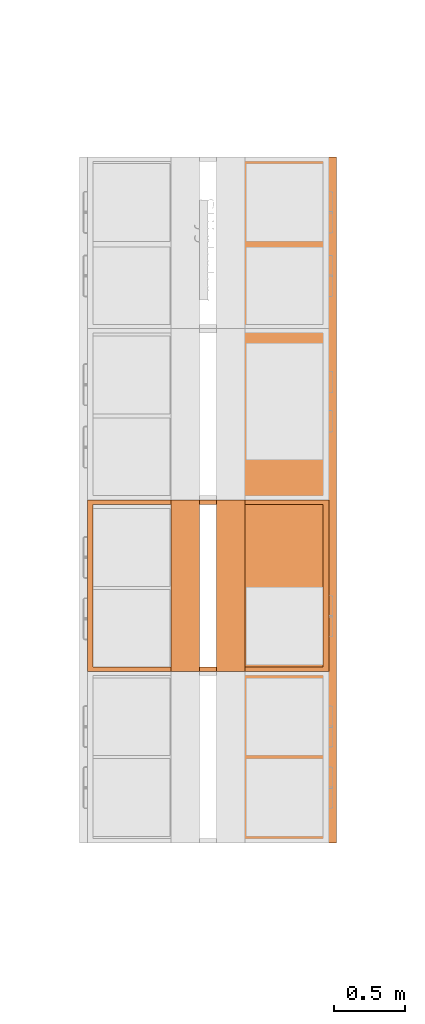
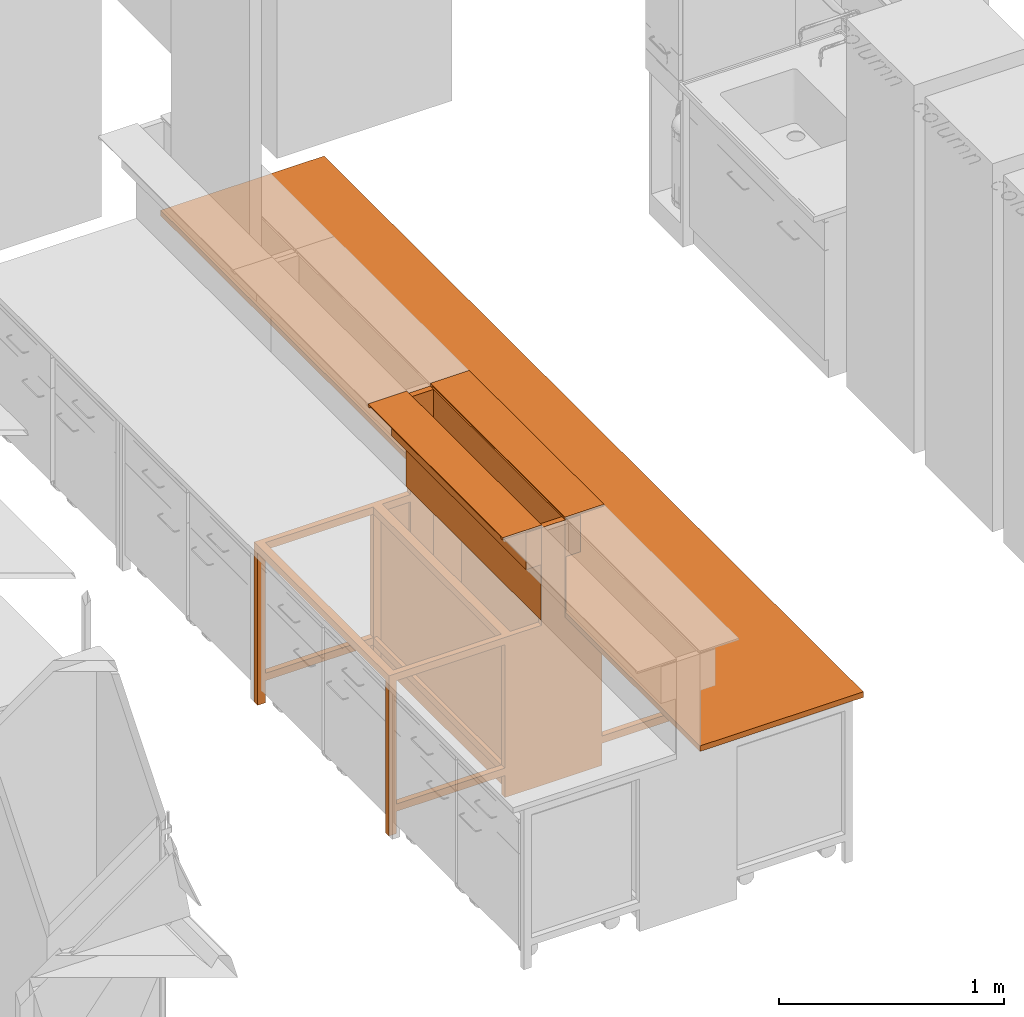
# One storey, part 5 of 43: 4 proxies.
"""IFC2X3 building model written with IfcOpenShell, lengths in metres."""

import ifcopenshell
import ifcopenshell.guid

model = None  # the IFC model being written
_history = None  # IfcOwnerHistory: only IFC2X3 demands one
_inside = {}  # id of a spatial element -> (the spatial element, [elements in it])
_under = {}  # id of a project, library or spatial element -> (it, [spatial elements below it])
_declared = {}  # id of a project -> (the project, [libraries it declares])
_typed = {}  # id of a type object -> (the type object, [elements of that type])
_made_of = {}  # id of a material, layer set ... -> (it, [elements and type objects made of it])


def new_model(schema):
    """Start an empty IFC model of exactly this schema.

    Asked for "IFC4X3", IfcOpenShell would pick the latest addendum, in which some entities
    have other attributes; the version numbers below select the first issue.
    IFC2X3 requires an IfcOwnerHistory on every rooted entity: one is made here for all.
    """
    global model, _history
    if schema == "IFC4X3":
        model = ifcopenshell.file(schema_version=(4, 3, 0, 0))
    else:
        model = ifcopenshell.file(schema=schema)
    _inside.clear()
    _under.clear()
    _declared.clear()
    _typed.clear()
    _made_of.clear()
    _history = None
    if model.schema == "IFC2X3":
        org = make("IfcOrganization", Name="unknown")
        user = make(
            "IfcPersonAndOrganization",
            ThePerson=make("IfcPerson", FamilyName="unknown"),
            TheOrganization=org,
        )
        app = make(
            "IfcApplication",
            ApplicationDeveloper=org,
            Version="unknown",
            ApplicationFullName="unknown",
            ApplicationIdentifier="unknown",
        )
        _history = make(
            "IfcOwnerHistory",
            OwningUser=user,
            OwningApplication=app,
            ChangeAction="ADDED",
            CreationDate=0,
        )
    return model


def make(cls, **values):
    """One entity of the class cls with the attributes given. An attribute that is None is left unset."""
    return model.create_entity(
        cls, **{name: value for name, value in values.items() if value is not None}
    )


def entity(cls, *values):
    """Any entity or typed value of the class cls, its attributes in the order of the schema. None: left unset."""
    e = model.create_entity(cls)
    for i, value in enumerate(values):
        if value is not None:
            e[i] = value
    return e


def rooted(cls, **values):
    """An entity with a GlobalId (a new one), such as an element, a storey or a relation."""
    return make(cls, GlobalId=ifcopenshell.guid.new(), OwnerHistory=_history, **values)


def si_unit(unit_type, name, prefix=None):
    """IfcSIUnit, for example si_unit("LENGTHUNIT", "METRE", prefix="MILLI")."""
    return make("IfcSIUnit", UnitType=unit_type, Prefix=prefix, Name=name)


def converted_unit(unit_type, name, factor, base, dimensions=None, offset=None):
    """IfcConversionBasedUnit, such as the inch: factor (a typed value) times the base unit."""
    return make(
        "IfcConversionBasedUnit"
        if offset is None
        else "IfcConversionBasedUnitWithOffset",
        ConversionOffset=offset,
        Dimensions=None
        if dimensions is None
        else entity("IfcDimensionalExponents", *dimensions),
        UnitType=unit_type,
        Name=name,
        ConversionFactor=make(
            "IfcMeasureWithUnit", ValueComponent=factor, UnitComponent=base
        ),
    )


def derived_unit(unit_type, elements):
    """IfcDerivedUnit: a product of units, each with its exponent."""
    return make(
        "IfcDerivedUnit",
        Elements=[
            make("IfcDerivedUnitElement", Unit=unit, Exponent=power)
            for unit, power in elements
        ],
        UnitType=unit_type,
    )


def assignment(units):
    """IfcUnitAssignment: the units of a project."""
    return None if units is None else make("IfcUnitAssignment", Units=units)


def point(xyz):
    """IfcCartesianPoint."""
    return None if xyz is None else make("IfcCartesianPoint", Coordinates=xyz)


def direction(xyz):
    """IfcDirection."""
    return None if xyz is None else make("IfcDirection", DirectionRatios=xyz)


def frame(location, z_axis=None, x_axis=None):
    """IfcAxis2Placement3D, a coordinate frame: its origin and axes. An axis left out is left unset."""
    return make(
        "IfcAxis2Placement3D",
        Location=point(location),
        Axis=direction(z_axis),
        RefDirection=direction(x_axis),
    )


def frame_2d(location, x_axis=None):
    """IfcAxis2Placement2D, a coordinate frame in the plane: its origin and x axis."""
    return make(
        "IfcAxis2Placement2D", Location=point(location), RefDirection=direction(x_axis)
    )


def origin():
    """The frame at (0, 0, 0) with its axes left unset."""
    return frame((0.0, 0.0, 0.0))


def origin_2d_with_axis():
    """The frame at (0, 0) in the plane with the x axis (1, 0) written out."""
    return frame_2d((0.0, 0.0), x_axis=(1.0, 0.0))


def place(relative_to, where):
    """IfcLocalPlacement: puts the frame where relative to a parent placement (None: the world)."""
    return make(
        "IfcLocalPlacement", PlacementRelTo=relative_to, RelativePlacement=where
    )


def context(
    kind, dimensions, precision=None, world=None, true_north=None, identifier=None
):
    """IfcGeometricRepresentationContext, for example the 3D "Model" context."""
    return make(
        "IfcGeometricRepresentationContext",
        ContextIdentifier=identifier,
        ContextType=kind,
        CoordinateSpaceDimension=dimensions,
        Precision=precision,
        WorldCoordinateSystem=world,
        TrueNorth=true_north,
    )


def subcontext(parent, identifier, kind, view, scale=None):
    """IfcGeometricRepresentationSubContext, for example "Body" below "Model"."""
    return make(
        "IfcGeometricRepresentationSubContext",
        ContextIdentifier=identifier,
        ContextType=kind,
        ParentContext=parent,
        TargetScale=scale,
        TargetView=view,
    )


def project(units=None, contexts=None):
    """IfcProject with its units and contexts."""
    return rooted(
        "IfcProject",
        Name="project",
        RepresentationContexts=contexts,
        UnitsInContext=assignment(units),
    )


def spatial(cls, under=None, at=None, **own):
    """A site, building, storey or space (cls), placed at a placement, below another one or the project."""
    s = rooted(cls, ObjectPlacement=at, **own)
    if under is not None:
        _under.setdefault(under.id(), (under, []))[1].append(s)
    return s


def polyline(points):
    """IfcPolyline through the points."""
    return make("IfcPolyline", Points=[point(p) for p in points])


def circle_curve(where, radius):
    """IfcCircle in the frame where."""
    return make("IfcCircle", Position=where, Radius=radius)


def parameter(value):
    """IfcParameterValue: where a trimmed curve begins or ends, as a parameter of its basis curve."""
    return model.create_entity("IfcParameterValue", value)


def trimmed(basis, trim1, trim2, sense, master):
    """IfcTrimmedCurve: the piece of a basis curve between two trims."""
    return make(
        "IfcTrimmedCurve",
        BasisCurve=basis,
        Trim1=trim1,
        Trim2=trim2,
        SenseAgreement=sense,
        MasterRepresentation=master,
    )


def segment(curve, same_sense, transition):
    """IfcCompositeCurveSegment."""
    return make(
        "IfcCompositeCurveSegment",
        Transition=transition,
        SameSense=same_sense,
        ParentCurve=curve,
    )


def composite_curve(segments, self_intersect=None):
    """IfcCompositeCurve: segments joined end to end."""
    return make("IfcCompositeCurve", Segments=segments, SelfIntersect=self_intersect)


def profile(cls, at=None, kind="AREA", **sizes):
    """A parametric profile (cls). Its sizes go by their IFC names, for example OverallWidth=200.0."""
    return make(cls, ProfileType=kind, Position=at, **sizes)


def rectangle(**sizes):
    """IfcRectangleProfileDef."""
    return profile("IfcRectangleProfileDef", **sizes)


def outline(outer, holes=None, kind="AREA"):
    """IfcArbitraryClosedProfileDef: a profile drawn as a closed curve; with holes, ...WithVoids."""
    if holes is None:
        return make("IfcArbitraryClosedProfileDef", ProfileType=kind, OuterCurve=outer)
    return make(
        "IfcArbitraryProfileDefWithVoids",
        ProfileType=kind,
        OuterCurve=outer,
        InnerCurves=holes,
    )


def extrude(swept, where, along, depth):
    """IfcExtrudedAreaSolid: the profile swept, set in the frame where, extruded along a direction by depth."""
    return make(
        "IfcExtrudedAreaSolid",
        SweptArea=swept,
        Position=where,
        ExtrudedDirection=direction(along),
        Depth=depth,
    )


def faces_of(points, faces, orient=None, outer=None):
    """IfcFace entities. A face is a list of loops; a loop is a list of indices into points, from 0.

    orient and outer hold one flag for each loop. By default every Orientation is true, the
    first loop of a face is its IfcFaceOuterBound and the others are IfcFaceBound.
    """
    made = []
    for i, loops in enumerate(faces):
        bounds = []
        for j, loop in enumerate(loops):
            is_outer = j == 0 if outer is None else outer[i][j]
            bounds.append(
                make(
                    "IfcFaceOuterBound" if is_outer else "IfcFaceBound",
                    Bound=make("IfcPolyLoop", Polygon=[points[k] for k in loop]),
                    Orientation=True if orient is None else orient[i][j],
                )
            )
        made.append(make("IfcFace", Bounds=bounds))
    return made


def faceted_brep(points, faces, orient=None, outer=None, voids=None):
    """IfcFacetedBrep: a solid bounded by flat faces; with voids (closed shells), ...WithVoids."""
    shared = [point(p) for p in points]
    hull = make("IfcClosedShell", CfsFaces=faces_of(shared, faces, orient, outer))
    if voids is None:
        return make("IfcFacetedBrep", Outer=hull)
    return make(
        "IfcFacetedBrepWithVoids",
        Outer=hull,
        Voids=[
            make(cls, CfsFaces=faces_of(shared, fs, o, b)) for cls, fs, o, b in voids
        ],
    )


def shape(context_of_items, identifier, shape_type, items):
    """IfcShapeRepresentation: the items that make up one representation, for example the "Body"."""
    return make(
        "IfcShapeRepresentation",
        ContextOfItems=context_of_items,
        RepresentationIdentifier=identifier,
        RepresentationType=shape_type,
        Items=items,
    )


def source(mapping_origin, context_of_items, identifier, shape_type, items):
    """IfcRepresentationMap: a shape defined once, which mapped items show again and again."""
    return make(
        "IfcRepresentationMap",
        MappingOrigin=mapping_origin,
        MappedRepresentation=shape(context_of_items, identifier, shape_type, items),
    )


def transform(
    local_origin,
    x_axis=None,
    y_axis=None,
    z_axis=None,
    scale=None,
    scale2=None,
    scale3=None,
    uniform=True,
):
    """IfcCartesianTransformationOperator3D, or its non-uniform kind. x_axis, y_axis, z_axis: its Axis1, 2, 3."""
    if uniform:
        return make(
            "IfcCartesianTransformationOperator3D",
            Axis1=direction(x_axis),
            Axis2=direction(y_axis),
            LocalOrigin=point(local_origin),
            Scale=scale,
            Axis3=direction(z_axis),
        )
    return make(
        "IfcCartesianTransformationOperator3DnonUniform",
        Axis1=direction(x_axis),
        Axis2=direction(y_axis),
        LocalOrigin=point(local_origin),
        Scale=scale,
        Axis3=direction(z_axis),
        Scale2=scale2,
        Scale3=scale3,
    )


def mapped(mapping_source, mapping_target):
    """IfcMappedItem: shows the shape of a source again, moved by a transform."""
    return make(
        "IfcMappedItem", MappingSource=mapping_source, MappingTarget=mapping_target
    )


def material(Name=None, Category=None):
    """IfcMaterial."""
    return make("IfcMaterial", Name=Name, Category=Category)


def material_list(materials):
    """IfcMaterialList."""
    return make("IfcMaterialList", Materials=materials)


def made_of(thing, what):
    """Note that an element or type object is made of a material, layer set ...; save() writes the relation."""
    if what is not None:
        _made_of.setdefault(what.id(), (what, []))[1].append(thing)
    return thing


def type_object(cls, material=None, **own):
    """A type object (cls), such as IfcWallType, which elements share."""
    return made_of(rooted(cls, **own), material)


def type_shapes(of_type, sources):
    """Give a type object the sources (RepresentationMaps) that its elements show as mapped items."""
    of_type.RepresentationMaps = sources


def element(
    cls,
    number,
    at=None,
    inside=None,
    cuts=None,
    type_object=None,
    material=None,
    context=None,
    identifier="Body",
    shape_type=None,
    held_by="IfcProductDefinitionShape",
    body=None,
    shapes=None,
    **own,
):
    """One element of the class cls, such as IfcWall. Its Tag is "e" and its number.

    at: its placement. inside: the storey or other place that contains it. cuts: it is an
    opening in that element (IfcRelVoidsElement). A single representation is given by context,
    identifier, shape_type and body (its items); several are given by shapes. held_by: the class
    of the entity that holds the representations. save() writes the other relations.
    """
    e = rooted(cls, Tag="e%d" % number, ObjectPlacement=at, **own)
    if body is not None:
        shapes = [shape(context, identifier, shape_type, body)]
    if shapes is not None:
        e.Representation = make(held_by, Representations=shapes)
    if inside is not None:
        _inside.setdefault(inside.id(), (inside, []))[1].append(e)
    if cuts is not None:
        rooted(
            "IfcRelVoidsElement", RelatingBuildingElement=cuts, RelatedOpeningElement=e
        )
    if type_object is not None:
        _typed.setdefault(type_object.id(), (type_object, []))[1].append(e)
    return made_of(e, material)


def aggregate(whole, parts):
    """IfcRelAggregates: a whole, such as a stair, and the parts it consists of."""
    return rooted("IfcRelAggregates", RelatingObject=whole, RelatedObjects=parts)


def save(model, path):
    """Write the relations noted so far, then the file.

    IfcRelAggregates (storeys below a building ...), IfcRelContainedInSpatialStructure (elements
    in a storey), IfcRelDefinesByType, IfcRelAssociatesMaterial and IfcRelDeclares: one each for
    every whole, place, type object, material and project.
    """
    for whole, parts in _under.values():
        aggregate(whole, parts)
    for where, things in _inside.values():
        rooted(
            "IfcRelContainedInSpatialStructure",
            RelatedElements=things,
            RelatingStructure=where,
        )
    for kind, things in _typed.values():
        rooted("IfcRelDefinesByType", RelatedObjects=things, RelatingType=kind)
    for what, things in _made_of.values():
        rooted("IfcRelAssociatesMaterial", RelatedObjects=things, RelatingMaterial=what)
    for by, libraries in _declared.values():
        rooted("IfcRelDeclares", RelatingContext=by, RelatedDefinitions=libraries)
    model.write(path)


model = new_model("IFC2X3")

# Units and contexts
model_context = context("Model", 3, precision=1e-05, world=origin(), true_north=direction((6.12303176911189e-17, 1.0)))
body_context = subcontext(model_context, "Body", "Model", "MODEL_VIEW")
ifc_project = project(units=[si_unit("LENGTHUNIT", "METRE"), si_unit("AREAUNIT", "SQUARE_METRE"), si_unit("VOLUMEUNIT", "CUBIC_METRE"), converted_unit("PLANEANGLEUNIT", "DEGREE", entity("IfcRatioMeasure", 0.0174532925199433), si_unit("PLANEANGLEUNIT", "RADIAN"), dimensions=[0, 0, 0, 0, 0, 0, 0]), si_unit("MASSUNIT", "GRAM", prefix="KILO"), derived_unit("MASSDENSITYUNIT", [(si_unit("MASSUNIT", "GRAM", prefix="KILO"), 1), (si_unit("LENGTHUNIT", "METRE"), -3)]), derived_unit("MOMENTOFINERTIAUNIT", [(si_unit("LENGTHUNIT", "METRE"), 4)]), si_unit("TIMEUNIT", "SECOND"), si_unit("FREQUENCYUNIT", "HERTZ"), si_unit("THERMODYNAMICTEMPERATUREUNIT", "DEGREE_CELSIUS"), derived_unit("THERMALTRANSMITTANCEUNIT", [(si_unit("MASSUNIT", "GRAM", prefix="KILO"), 1), (si_unit("THERMODYNAMICTEMPERATUREUNIT", "KELVIN"), -1), (si_unit("TIMEUNIT", "SECOND"), -3)]), derived_unit("VOLUMETRICFLOWRATEUNIT", [(si_unit("LENGTHUNIT", "METRE"), 3), (si_unit("TIMEUNIT", "SECOND"), -1)]), si_unit("ELECTRICCURRENTUNIT", "AMPERE"), si_unit("ELECTRICVOLTAGEUNIT", "VOLT"), si_unit("POWERUNIT", "WATT"), si_unit("FORCEUNIT", "NEWTON", prefix="KILO"), si_unit("ILLUMINANCEUNIT", "LUX"), si_unit("LUMINOUSFLUXUNIT", "LUMEN"), si_unit("LUMINOUSINTENSITYUNIT", "CANDELA"), derived_unit("USERDEFINED", [(si_unit("MASSUNIT", "GRAM", prefix="KILO"), -1), (si_unit("LENGTHUNIT", "METRE"), -2), (si_unit("TIMEUNIT", "SECOND"), 3), (si_unit("LUMINOUSFLUXUNIT", "LUMEN"), 1)]), derived_unit("LINEARVELOCITYUNIT", [(si_unit("LENGTHUNIT", "METRE"), 1), (si_unit("TIMEUNIT", "SECOND"), -1)]), si_unit("PRESSUREUNIT", "PASCAL"), derived_unit("USERDEFINED", [(si_unit("LENGTHUNIT", "METRE"), -2), (si_unit("MASSUNIT", "GRAM", prefix="KILO"), 1), (si_unit("TIMEUNIT", "SECOND"), -2)]), derived_unit("LINEARFORCEUNIT", [(si_unit("MASSUNIT", "GRAM", prefix="KILO"), 1), (si_unit("LENGTHUNIT", "METRE"), 1), (si_unit("TIMEUNIT", "SECOND"), -2), (si_unit("LENGTHUNIT", "METRE"), -1)]), derived_unit("PLANARFORCEUNIT", [(si_unit("MASSUNIT", "GRAM", prefix="KILO"), 1), (si_unit("LENGTHUNIT", "METRE"), 1), (si_unit("TIMEUNIT", "SECOND"), -2), (si_unit("LENGTHUNIT", "METRE"), -2)])], contexts=[model_context])

# Site, building, storey
site_placement = place(None, origin())
site = spatial("IfcSite", under=ifc_project, at=site_placement, Name="Default", CompositionType="ELEMENT")
building_placement = place(site_placement, origin())
building = spatial("IfcBuilding", under=site, at=building_placement, CompositionType="ELEMENT")
storey_placement = place(building_placement, frame((0.0, 0.0, 3.0)))
storey = spatial("IfcBuildingStorey", under=building, at=storey_placement, Name="01 OG", CompositionType="ELEMENT", Elevation=3.0)

# Proxies
ifc_material_1 = material(Name="dh_Weiß")
ifc_material_2 = material(Name="dh_Glas WHS")
ifc_material_3 = material(Name="dh_Blau")
ifc_material_list_1 = material_list([ifc_material_1, ifc_material_2, ifc_material_3])
ifc_material_list_2 = material_list([ifc_material_2, ifc_material_3, ifc_material_1])
building_element_proxy_type_1 = type_object("IfcBuildingElementProxyType", Name="dh_Medienwand WHA:120 Stehtisch", PredefinedType="NOTDEFINED", material=ifc_material_list_2)
shared_shape_1 = source(origin(), body_context, "Body", "SweptSolid", [
    extrude(outline(composite_curve([segment(trimmed(circle_curve(frame_2d((0.0, 0.0), x_axis=(-1.0, 0.0)), 0.01), [parameter(0.0)], [parameter(180.0)], True, "PARAMETER"), True, "CONTINUOUS"), segment(polyline([(0.01, 0.0), (-0.01, 0.0)]), True, "CONTINUOUS")], self_intersect=False)), frame((-0.589999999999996, 0.1, 1.40999999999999), z_axis=(0.0, -1.0, 0.0), x_axis=(1.0, 0.0, 0.0)), (0.0, 0.0, -1.0), 0.2),
    extrude(outline(composite_curve([segment(trimmed(circle_curve(origin_2d_with_axis(), 0.00999999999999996), [parameter(0.0)], [parameter(180.0)], True, "PARAMETER"), True, "CONTINUOUS"), segment(polyline([(-0.0099999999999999, 0.0), (0.0099999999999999, 0.0)]), True, "CONTINUOUS")], self_intersect=False)), frame((0.590000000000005, 0.1, 1.40999999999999), z_axis=(0.0, 1.0, 0.0), x_axis=(1.0, 0.0, 0.0)), (0.0, 0.0, 1.0), 0.2),
    extrude(rectangle(XDim=1.2, YDim=0.2, at=origin_2d_with_axis()), frame((0.0, 0.2, 1.40999999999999), z_axis=(0.0, 0.0, 1.0), x_axis=(-1.0, 0.0, 0.0)), (0.0, 0.0, 1.0), 0.00499999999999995),
    extrude(rectangle(XDim=0.00500000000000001, YDim=1.2, at=frame_2d((-3.38271077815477e-17, 0.0), x_axis=(1.0, 0.0))), frame((0.0, 0.2975, 0.900000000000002), z_axis=(0.0, 0.0, 1.0), x_axis=(0.0, 1.0, 0.0)), (0.0, 0.0, 1.0), 0.299999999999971),
    extrude(rectangle(XDim=1.2, YDim=0.08, at=frame_2d((0.0, 3.46944695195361e-17), x_axis=(1.0, 0.0))), frame((0.0, 0.26, 1.20000000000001), z_axis=(0.0, 0.0, 1.0), x_axis=(-1.0, 0.0, 0.0)), (0.0, 0.0, 1.0), 0.199999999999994),
])
type_shapes(building_element_proxy_type_1, [shared_shape_1])
proxy_1_placement = place(storey_placement, frame((13.24, 13.3240000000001, 0.7), z_axis=(0.0, 0.0, 1.0), x_axis=(0.0, -1.0, 0.0)))
element("IfcBuildingElementProxy", 1, at=proxy_1_placement, inside=storey, type_object=building_element_proxy_type_1, material=ifc_material_list_1, Name="dh_Medienwand WHA:120 Stehtisch", ObjectType="dh_Medienwand WHA:120 Stehtisch", context=body_context, shape_type="MappedRepresentation", body=[
    mapped(shared_shape_1, transform((0.0, 0.0, 0.0), scale=1.0)),
])
ifc_material_list_3 = material_list([ifc_material_1, ifc_material_2, ifc_material_3])
proxy_2_placement = place(storey_placement, frame((13.96, 13.3240000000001, 0.7), z_axis=(0.0, 0.0, 1.0), x_axis=(0.0, 1.0, 0.0)))
element("IfcBuildingElementProxy", 2, at=proxy_2_placement, inside=storey, type_object=building_element_proxy_type_1, material=ifc_material_list_3, Name="dh_Medienwand WHA:120 Stehtisch", ObjectType="dh_Medienwand WHA:120 Stehtisch", context=body_context, shape_type="MappedRepresentation", body=[
    mapped(shared_shape_1, transform((0.0, 0.0, 0.0), scale=1.0)),
])
ifc_material_4 = material(Name="dh_EZ blau")
ifc_material_5 = material(Name="Stopper")
ifc_material_list_4 = material_list([ifc_material_4, ifc_material_5, ifc_material_1])
ifc_material_list_5 = material_list([ifc_material_2, ifc_material_4])
building_element_proxy_type_2 = type_object("IfcBuildingElementProxyType", Name="dh_Energiezelle-Doppel ST:DEZ_ST120 ohne WHS WHA", PredefinedType="NOTDEFINED", material=ifc_material_list_5)
shared_shape_2 = source(origin(), body_context, "Body", "Brep", [
    faceted_brep([(0.6, 0.119999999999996, 1.4), (0.57, 0.119999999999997, 1.4), (0.57, 0.0, 1.4), (0.6, 0.0, 1.4), (0.57, 0.119999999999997, 0.0), (0.6, 0.119999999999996, 0.0), (0.6, 0.0, 0.0), (0.57, 0.0, 0.0)], [[[0, 1, 2, 3]], [[4, 5, 6, 7]], [[2, 1, 4, 7]], [[1, 0, 5, 4]], [[0, 3, 6, 5]], [[3, 2, 7, 6]]]),
    faceted_brep([(-0.6, 0.0, 1.4), (-0.599999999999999, 0.120000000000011, 1.4), (-0.599999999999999, 0.120000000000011, 0.0), (-0.6, 0.0, 0.0), (-0.569999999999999, 0.120000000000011, 1.4), (-0.569999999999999, 0.120000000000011, 0.0), (-0.570000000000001, 0.0, 1.4), (-0.57, 0.0, 0.0)], [[[0, 1, 2, 3]], [[1, 4, 5, 2]], [[4, 6, 7, 5]], [[6, 0, 3, 7]], [[2, 5, 7, 3]], [[4, 1, 0, 6]]]),
    faceted_brep([(-0.599999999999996, 0.120000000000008, 0.870000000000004), (-0.570000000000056, 0.120000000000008, 0.870000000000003), (-0.570000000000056, 0.270000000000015, 0.870000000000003), (0.569999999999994, 0.270000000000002, 0.87), (0.569999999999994, 0.12, 0.87), (0.600000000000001, 0.12, 0.87), (0.600000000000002, 0.904999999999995, 0.87), (-0.599999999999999, 0.905000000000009, 0.870000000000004), (0.569999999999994, 0.31, 0.87), (-0.570000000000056, 0.310000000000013, 0.870000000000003), (-0.570000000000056, 0.865000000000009, 0.870000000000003), (0.569999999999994, 0.864999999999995, 0.87), (0.569999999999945, 0.865000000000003, 0.83), (-0.570000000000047, 0.865000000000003, 0.830000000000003), (-0.570000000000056, 0.905000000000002, 0.830000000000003), (0.569999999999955, 0.905000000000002, 0.83), (-0.570000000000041, 0.270000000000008, 0.830000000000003), (0.569999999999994, 0.270000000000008, 0.83), (0.56999999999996, 0.31000000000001, 0.83), (-0.570000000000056, 0.31000000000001, 0.830000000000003), (-0.570000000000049, 0.905000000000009, 0.0100000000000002), (-0.600000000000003, 0.905000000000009, 0.0100000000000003), (0.599999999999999, 0.904999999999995, 0.00999999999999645), (0.569999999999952, 0.904999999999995, 0.00999999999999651), (0.599999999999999, 0.864999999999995, 0.00999999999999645), (0.569999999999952, 0.864999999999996, 0.00999999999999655), (-0.600000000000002, 0.865000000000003, 0.0100000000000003), (-0.599999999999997, 0.865000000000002, 0.830000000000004), (-0.600000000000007, 0.310000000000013, 0.830000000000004), (-0.60000000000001, 0.310000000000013, 0.0100000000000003), (-0.60000000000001, 0.270000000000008, 0.0100000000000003), (-0.600000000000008, 0.270000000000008, 0.830000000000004), (-0.599999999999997, 0.120000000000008, 0.830000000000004), (-0.570000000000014, 0.270000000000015, 0.0100000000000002), (-0.570000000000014, 0.31000000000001, 0.0100000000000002), (0.569999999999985, 0.31, 0.00999999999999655), (0.569999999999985, 0.270000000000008, 0.00999999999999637), (0.600000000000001, 0.12, 0.83), (0.599999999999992, 0.270000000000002, 0.83), (0.599999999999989, 0.270000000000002, 0.00999999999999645), (0.59999999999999, 0.31000000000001, 0.00999999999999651), (0.599999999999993, 0.31000000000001, 0.83), (0.599999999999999, 0.864999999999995, 0.83), (-0.570000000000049, 0.865000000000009, 0.0100000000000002), (-0.570000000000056, 0.120000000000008, 0.830000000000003), (0.569999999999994, 0.12, 0.83)], [[[0, 1, 2, 3, 4, 5, 6, 7], [8, 9, 10, 11]], [[12, 13, 14, 15]], [[16, 17, 3, 2]], [[18, 19, 9, 8]], [[13, 12, 11, 10]], [[15, 14, 20, 21, 7, 6, 22, 23]], [[24, 25, 23, 22]], [[0, 7, 21, 26, 27, 28, 29, 30, 31, 32]], [[33, 34, 19, 16]], [[35, 36, 17, 18]], [[6, 5, 37, 38, 39, 40, 41, 42, 24, 22]], [[43, 20, 14, 13]], [[23, 25, 12, 15]], [[44, 32, 31, 16]], [[1, 0, 32, 44]], [[10, 9, 19, 13]], [[8, 11, 12, 18]], [[5, 4, 45, 37]], [[45, 4, 3, 17]], [[1, 44, 16, 2]], [[37, 45, 17, 38]], [[18, 12, 42, 41]], [[13, 19, 28, 27]], [[43, 26, 21, 20]], [[39, 36, 35, 40]], [[33, 30, 29, 34]], [[26, 43, 13, 27]], [[25, 24, 42, 12]], [[40, 35, 18, 41]], [[34, 29, 28, 19]], [[30, 33, 16, 31]], [[36, 39, 38, 17]], [[17, 16, 19, 18]]]),
    faceted_brep([(-0.599999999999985, 0.270000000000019, 0.01), (-0.570000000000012, 0.270000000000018, 0.01), (-0.570000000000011, 0.310000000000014, 0.01), (-0.599999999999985, 0.310000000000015, 0.01), (-0.599999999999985, 0.310000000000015, 0.0), (-0.599999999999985, 0.270000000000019, 0.0), (-0.570000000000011, 0.310000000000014, 0.0), (-0.570000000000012, 0.270000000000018, 0.0)], [[[0, 1, 2, 3]], [[0, 3, 4, 5]], [[3, 2, 6, 4]], [[2, 1, 7, 6]], [[1, 0, 5, 7]], [[5, 4, 6, 7]]]),
    faceted_brep([(0.56999999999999, 0.270000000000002, 0.0), (0.569999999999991, 0.31, 0.0), (0.600000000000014, 0.31, 0.0), (0.600000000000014, 0.270000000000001, 0.0), (0.56999999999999, 0.270000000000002, 0.01), (0.569999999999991, 0.31, 0.01), (0.600000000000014, 0.31, 0.01), (0.600000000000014, 0.270000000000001, 0.01)], [[[0, 1, 2, 3]], [[4, 5, 1, 0]], [[5, 6, 2, 1]], [[6, 7, 3, 2]], [[7, 4, 0, 3]], [[4, 7, 6, 5]]]),
    faceted_brep([(0.570000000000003, 0.864999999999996, 0.01), (0.570000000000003, 0.904999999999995, 0.01), (0.570000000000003, 0.904999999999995, 0.0), (0.570000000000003, 0.864999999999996, 0.0), (0.600000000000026, 0.904999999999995, 0.01), (0.600000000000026, 0.904999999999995, 0.0), (0.600000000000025, 0.864999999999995, 0.01), (0.600000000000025, 0.864999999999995, 0.0)], [[[0, 1, 2, 3]], [[1, 4, 5, 2]], [[4, 6, 7, 5]], [[6, 0, 3, 7]], [[3, 2, 5, 7]], [[0, 6, 4, 1]]]),
    faceted_brep([(-0.599999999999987, 0.865000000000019, 0.01), (-0.599999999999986, 0.905000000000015, 0.01), (-0.599999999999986, 0.905000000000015, 0.0), (-0.599999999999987, 0.865000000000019, 0.0), (-0.569999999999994, 0.905000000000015, 0.01), (-0.569999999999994, 0.905000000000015, 0.0), (-0.569999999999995, 0.865000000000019, 0.01), (-0.569999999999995, 0.865000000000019, 0.0)], [[[0, 1, 2, 3]], [[1, 4, 5, 2]], [[4, 6, 7, 5]], [[6, 0, 3, 7]], [[3, 2, 5, 7]], [[0, 6, 4, 1]]]),
    faceted_brep([(0.569999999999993, 0.27, 0.870000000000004), (-0.570000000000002, 0.270000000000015, 0.870000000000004), (-0.570000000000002, 0.265000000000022, 0.870000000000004), (0.569999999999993, 0.265000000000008, 0.870000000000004), (0.569999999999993, 0.27, 0.0), (0.569999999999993, 0.265000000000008, 0.0), (-0.570000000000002, 0.265000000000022, 0.0), (-0.570000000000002, 0.270000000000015, 0.0)], [[[0, 1, 2, 3]], [[4, 5, 6, 7]], [[1, 0, 4, 7]], [[2, 1, 7, 6]], [[3, 2, 6, 5]], [[0, 3, 5, 4]]]),
    faceted_brep([(-0.6, 0.120000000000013, 0.830000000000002), (-0.58, 0.120000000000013, 0.830000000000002), (-0.579999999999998, 0.270000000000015, 0.830000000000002), (-0.599999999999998, 0.270000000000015, 0.830000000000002), (-0.599999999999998, 0.270000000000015, 0.0), (-0.6, 0.120000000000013, 0.0), (-0.579999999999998, 0.270000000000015, 0.0), (-0.58, 0.120000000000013, 0.0)], [[[0, 1, 2, 3]], [[0, 3, 4, 5]], [[3, 2, 6, 4]], [[2, 1, 7, 6]], [[1, 0, 5, 7]], [[5, 4, 6, 7]]]),
    faceted_brep([(0.58, 0.119999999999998, 0.0), (0.580000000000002, 0.270000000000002, 0.0), (0.600000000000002, 0.270000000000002, 0.0), (0.6, 0.119999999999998, 0.0), (0.58, 0.119999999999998, 0.830000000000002), (0.580000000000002, 0.270000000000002, 0.830000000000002), (0.600000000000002, 0.270000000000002, 0.830000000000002), (0.6, 0.119999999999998, 0.830000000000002)], [[[0, 1, 2, 3]], [[4, 5, 1, 0]], [[5, 6, 2, 1]], [[6, 7, 3, 2]], [[7, 4, 0, 3]], [[4, 7, 6, 5]]]),
    faceted_brep([(0.569999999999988, 0.290000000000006, 0.16), (0.569999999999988, 0.310000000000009, 0.16), (-0.570000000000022, 0.310000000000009, 0.160000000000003), (-0.570000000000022, 0.290000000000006, 0.160000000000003), (0.569999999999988, 0.290000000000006, 0.12), (-0.570000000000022, 0.290000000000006, 0.120000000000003), (-0.570000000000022, 0.310000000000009, 0.120000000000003), (0.569999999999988, 0.310000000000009, 0.12)], [[[0, 1, 2, 3]], [[4, 5, 6, 7]], [[0, 3, 5, 4]], [[3, 2, 6, 5]], [[2, 1, 7, 6]], [[1, 0, 4, 7]]]),
    faceted_brep([(0.569999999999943, 0.310000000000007, 0.16), (0.599999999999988, 0.310000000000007, 0.16), (0.599999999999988, 0.865000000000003, 0.16), (0.569999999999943, 0.865000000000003, 0.16), (0.569999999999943, 0.310000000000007, 0.12), (0.569999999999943, 0.865000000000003, 0.12), (0.599999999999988, 0.865000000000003, 0.12), (0.599999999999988, 0.310000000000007, 0.12)], [[[0, 1, 2, 3]], [[4, 5, 6, 7]], [[0, 3, 5, 4]], [[3, 2, 6, 5]], [[2, 1, 7, 6]], [[1, 0, 4, 7]]]),
    faceted_brep([(-0.570000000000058, 0.310000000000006, 0.160000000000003), (-0.600000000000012, 0.310000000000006, 0.160000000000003), (-0.600000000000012, 0.310000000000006, 0.120000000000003), (-0.570000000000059, 0.310000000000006, 0.120000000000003), (-0.600000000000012, 0.865000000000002, 0.160000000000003), (-0.600000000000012, 0.865000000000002, 0.120000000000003), (-0.570000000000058, 0.865000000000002, 0.160000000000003), (-0.570000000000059, 0.865000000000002, 0.120000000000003)], [[[0, 1, 2, 3]], [[1, 4, 5, 2]], [[4, 6, 7, 5]], [[6, 0, 3, 7]], [[3, 2, 5, 7]], [[0, 6, 4, 1]]]),
    faceted_brep([(-0.599999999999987, -0.150000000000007, 0.01), (-0.599999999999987, -0.190000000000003, 0.01), (-0.570000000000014, -0.190000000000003, 0.01), (-0.570000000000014, -0.150000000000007, 0.01), (-0.599999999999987, -0.150000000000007, 0.0), (-0.599999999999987, -0.190000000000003, 0.0), (-0.570000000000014, -0.190000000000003, 0.0), (-0.570000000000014, -0.150000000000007, 0.0)], [[[0, 1, 2, 3]], [[1, 0, 4, 5]], [[2, 1, 5, 6]], [[3, 2, 6, 7]], [[0, 3, 7, 4]], [[4, 7, 6, 5]]]),
    faceted_brep([(-0.599999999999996, -0.745000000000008, 0.0), (-0.570000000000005, -0.745000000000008, 0.0), (-0.570000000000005, -0.785000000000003, 0.0), (-0.599999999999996, -0.785000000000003, 0.0), (-0.599999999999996, -0.785000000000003, 0.01), (-0.599999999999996, -0.745000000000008, 0.01), (-0.570000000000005, -0.785000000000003, 0.01), (-0.570000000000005, -0.745000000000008, 0.01)], [[[0, 1, 2, 3]], [[4, 5, 0, 3]], [[6, 4, 3, 2]], [[7, 6, 2, 1]], [[5, 7, 1, 0]], [[5, 4, 6, 7]]]),
    faceted_brep([(0.569999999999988, -0.190000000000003, 0.01), (0.569999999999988, -0.150000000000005, 0.01), (0.569999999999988, -0.150000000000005, 0.0), (0.569999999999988, -0.190000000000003, 0.0), (0.600000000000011, -0.190000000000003, 0.01), (0.600000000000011, -0.190000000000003, 0.0), (0.600000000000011, -0.150000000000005, 0.01), (0.600000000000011, -0.150000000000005, 0.0)], [[[0, 1, 2, 3]], [[4, 0, 3, 5]], [[6, 4, 5, 7]], [[1, 6, 7, 2]], [[2, 7, 5, 3]], [[1, 0, 4, 6]]]),
    faceted_brep([(0.569999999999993, -0.784999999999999, 0.01), (0.569999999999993, -0.744999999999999, 0.01), (0.569999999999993, -0.744999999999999, 0.0), (0.569999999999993, -0.784999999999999, 0.0), (0.600000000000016, -0.784999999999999, 0.01), (0.600000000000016, -0.784999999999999, 0.0), (0.600000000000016, -0.744999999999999, 0.01), (0.600000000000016, -0.744999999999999, 0.0)], [[[0, 1, 2, 3]], [[4, 0, 3, 5]], [[6, 4, 5, 7]], [[1, 6, 7, 2]], [[2, 7, 5, 3]], [[1, 0, 4, 6]]]),
    faceted_brep([(0.569999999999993, -0.150000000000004, 0.870000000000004), (0.569999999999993, -0.145000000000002, 0.870000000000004), (-0.570000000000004, -0.145000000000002, 0.870000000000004), (-0.570000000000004, -0.150000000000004, 0.870000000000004), (0.569999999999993, -0.150000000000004, 0.0), (-0.570000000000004, -0.150000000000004, 0.0), (-0.570000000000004, -0.145000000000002, 0.0), (0.569999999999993, -0.145000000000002, 0.0)], [[[0, 1, 2, 3]], [[4, 5, 6, 7]], [[0, 3, 5, 4]], [[3, 2, 6, 5]], [[2, 1, 7, 6]], [[1, 0, 4, 7]]]),
    faceted_brep([(-0.6, 0.0, 0.830000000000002), (-0.6, -0.150000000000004, 0.830000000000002), (-0.58, -0.150000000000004, 0.830000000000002), (-0.58, 0.0, 0.830000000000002), (-0.6, 0.0, 0.0), (-0.58, 0.0, 0.0), (-0.58, -0.150000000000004, 0.0), (-0.6, -0.150000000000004, 0.0)], [[[0, 1, 2, 3]], [[4, 5, 6, 7]], [[1, 0, 4, 7]], [[2, 1, 7, 6]], [[3, 2, 6, 5]], [[0, 3, 5, 4]]]),
    faceted_brep([(0.58, -0.150000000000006, 0.830000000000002), (0.58, 0.0, 0.830000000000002), (0.58, 0.0, 0.0), (0.58, -0.150000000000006, 0.0), (0.6, -0.150000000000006, 0.830000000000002), (0.6, -0.150000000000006, 0.0), (0.6, 0.0, 0.830000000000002), (0.6, 0.0, 0.0)], [[[0, 1, 2, 3]], [[4, 0, 3, 5]], [[6, 4, 5, 7]], [[1, 6, 7, 2]], [[2, 7, 5, 3]], [[1, 0, 4, 6]]]),
    faceted_brep([(-0.570000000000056, 0.0, 0.870000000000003), (-0.60000000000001, 0.0, 0.870000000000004), (-0.600000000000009, -0.784999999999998, 0.870000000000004), (0.599999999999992, -0.784999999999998, 0.87), (0.59999999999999, 0.0, 0.87), (0.569999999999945, 0.0, 0.87), (0.569999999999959, -0.150000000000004, 0.87), (-0.570000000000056, -0.150000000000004, 0.870000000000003), (-0.570000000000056, -0.744999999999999, 0.870000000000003), (-0.570000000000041, -0.190000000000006, 0.870000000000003), (0.569999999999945, -0.190000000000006, 0.87), (0.569999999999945, -0.744999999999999, 0.87), (-0.60000000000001, 0.0, 0.830000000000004), (-0.570000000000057, 0.0, 0.830000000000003), (-0.570000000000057, -0.150000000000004, 0.830000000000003), (-0.60000000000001, -0.150000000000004, 0.830000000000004), (-0.600000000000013, -0.150000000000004, 0.0100000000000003), (-0.600000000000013, -0.190000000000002, 0.0100000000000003), (-0.60000000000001, -0.190000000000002, 0.830000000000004), (-0.60000000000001, -0.744999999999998, 0.830000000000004), (-0.600000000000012, -0.744999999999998, 0.0100000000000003), (-0.600000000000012, -0.784999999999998, 0.0100000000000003), (0.569999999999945, 0.0, 0.83), (0.569999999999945, -0.150000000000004, 0.83), (0.59999999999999, 0.0, 0.83), (0.599999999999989, -0.784999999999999, 0.00999999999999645), (0.599999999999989, -0.744999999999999, 0.00999999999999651), (0.59999999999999, -0.744999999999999, 0.83), (0.59999999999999, -0.190000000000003, 0.83), (0.599999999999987, -0.190000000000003, 0.00999999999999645), (0.599999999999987, -0.150000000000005, 0.00999999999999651), (0.59999999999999, -0.150000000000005, 0.83), (-0.570000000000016, -0.150000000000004, 0.0100000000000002), (-0.570000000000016, -0.190000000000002, 0.0100000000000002), (-0.570000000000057, -0.190000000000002, 0.830000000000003), (0.569999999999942, -0.150000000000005, 0.00999999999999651), (0.569999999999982, -0.190000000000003, 0.00999999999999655), (0.569999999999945, -0.190000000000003, 0.83), (-0.570000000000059, -0.744999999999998, 0.0100000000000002), (-0.570000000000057, -0.744999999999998, 0.830000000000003), (-0.570000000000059, -0.784999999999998, 0.0100000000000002), (-0.570000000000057, -0.784999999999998, 0.830000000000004), (0.569999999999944, -0.784999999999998, 0.83), (0.569999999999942, -0.784999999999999, 0.00999999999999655), (0.569999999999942, -0.744999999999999, 0.00999999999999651), (0.569999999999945, -0.744999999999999, 0.83)], [[[0, 1, 2, 3, 4, 5, 6, 7], [8, 9, 10, 11]], [[12, 13, 14, 15]], [[1, 0, 13, 12]], [[1, 12, 15, 16, 17, 18, 19, 20, 21, 2]], [[13, 0, 7, 14]], [[5, 22, 23, 6]], [[24, 4, 3, 25, 26, 27, 28, 29, 30, 31]], [[5, 4, 24, 22]], [[32, 33, 17, 16]], [[32, 16, 15, 14]], [[17, 33, 34, 18]], [[30, 35, 23, 31]], [[36, 29, 28, 37]], [[38, 20, 19, 39]], [[3, 2, 21, 40, 41, 42, 43, 25]], [[26, 44, 45, 27]], [[42, 41, 39, 45]], [[7, 6, 23, 14]], [[10, 9, 34, 37]], [[8, 11, 45, 39]], [[37, 34, 14, 23]], [[38, 40, 21, 20]], [[30, 29, 36, 35]], [[26, 25, 43, 44]], [[37, 45, 11, 10]], [[35, 36, 37, 23]], [[44, 43, 42, 45]], [[39, 34, 9, 8]], [[40, 38, 39, 41]], [[33, 32, 14, 34]], [[34, 39, 19, 18]], [[22, 24, 31, 23]], [[28, 27, 45, 37]]]),
    faceted_brep([(0.569999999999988, -0.170000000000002, 0.16), (-0.570000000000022, -0.170000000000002, 0.160000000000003), (-0.570000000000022, -0.190000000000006, 0.160000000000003), (0.569999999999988, -0.190000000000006, 0.16), (0.569999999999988, -0.170000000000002, 0.12), (0.569999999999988, -0.190000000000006, 0.12), (-0.570000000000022, -0.190000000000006, 0.120000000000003), (-0.570000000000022, -0.170000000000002, 0.120000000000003)], [[[0, 1, 2, 3]], [[4, 5, 6, 7]], [[1, 0, 4, 7]], [[2, 1, 7, 6]], [[3, 2, 6, 5]], [[0, 3, 5, 4]]]),
    faceted_brep([(0.569999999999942, -0.190000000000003, 0.16), (0.569999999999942, -0.744999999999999, 0.16), (0.599999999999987, -0.744999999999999, 0.16), (0.599999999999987, -0.190000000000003, 0.16), (0.569999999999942, -0.190000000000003, 0.12), (0.569999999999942, -0.744999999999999, 0.12), (0.599999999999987, -0.744999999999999, 0.12), (0.599999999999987, -0.190000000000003, 0.12)], [[[0, 1, 2, 3]], [[1, 0, 4, 5]], [[2, 1, 5, 6]], [[3, 2, 6, 7]], [[0, 3, 7, 4]], [[4, 7, 6, 5]]]),
    faceted_brep([(-0.570000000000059, -0.190000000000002, 0.120000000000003), (-0.570000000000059, -0.744999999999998, 0.120000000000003), (-0.600000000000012, -0.744999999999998, 0.120000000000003), (-0.600000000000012, -0.190000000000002, 0.120000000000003), (-0.600000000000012, -0.190000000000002, 0.160000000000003), (-0.570000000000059, -0.190000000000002, 0.160000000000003), (-0.600000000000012, -0.744999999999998, 0.160000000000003), (-0.570000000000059, -0.744999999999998, 0.160000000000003)], [[[0, 1, 2, 3]], [[4, 5, 0, 3]], [[6, 4, 3, 2]], [[7, 6, 2, 1]], [[5, 7, 1, 0]], [[5, 4, 6, 7]]]),
])
type_shapes(building_element_proxy_type_2, [shared_shape_2])
proxy_3_placement = place(storey_placement, frame((13.66, 13.3240000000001, 0.7), z_axis=(0.0, 0.0, 1.0), x_axis=(0.0, 1.0, 0.0)))
element("IfcBuildingElementProxy", 3, at=proxy_3_placement, inside=storey, type_object=building_element_proxy_type_2, material=ifc_material_list_4, Name="dh_Energiezelle-Doppel ST:DEZ_ST120 ohne WHS WHA", ObjectType="dh_Energiezelle-Doppel ST:DEZ_ST120 ohne WHS WHA", context=body_context, shape_type="MappedRepresentation", body=[
    mapped(shared_shape_2, transform((0.0, 0.0, 0.0), scale=1.0)),
])
ifc_material_6 = material(Name="Arbeitsplatte mit fester Oberfläche")
ifc_material_7 = material(Name="Phenolharz")
ifc_material_list_6 = material_list([ifc_material_6, ifc_material_7])
ifc_material_list_7 = material_list([ifc_material_7, ifc_material_6])
building_element_proxy_type_3 = type_object("IfcBuildingElementProxyType", Name="dh_Tischplatte PH:TP PH", PredefinedType="NOTDEFINED", material=ifc_material_list_7)
shared_shape_3 = source(origin(), body_context, "Body", "SweptSolid", [
    extrude(rectangle(XDim=4.79999999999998, YDim=0.840000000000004, at=origin_2d_with_axis()), frame((0.0447003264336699, -0.420000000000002, 0.871999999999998), z_axis=(0.0, 0.0, 1.0), x_axis=(-1.0, 0.0, 0.0)), (0.0, 0.0, 1.0), 0.0260000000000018),
    extrude(rectangle(XDim=4.79999999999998, YDim=0.840000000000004, at=origin_2d_with_axis()), frame((0.0447003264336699, -0.420000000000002, 0.869999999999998), z_axis=(0.0, 0.0, 1.0), x_axis=(-1.0, 0.0, 0.0)), (0.0, 0.0, 1.0), 0.00199999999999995),
    extrude(rectangle(XDim=4.79999999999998, YDim=0.840000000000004, at=origin_2d_with_axis()), frame((0.0447003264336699, -0.420000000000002, 0.898), z_axis=(0.0, 0.0, 1.0), x_axis=(-1.0, 0.0, 0.0)), (0.0, 0.0, 1.0), 0.00200000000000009),
])
type_shapes(building_element_proxy_type_3, [shared_shape_3])
proxy_4_placement = place(storey_placement, frame((13.66, 13.8792996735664, 0.7), z_axis=(0.0, 0.0, 1.0), x_axis=(0.0, 1.0, 0.0)))
element("IfcBuildingElementProxy", 4, at=proxy_4_placement, inside=storey, type_object=building_element_proxy_type_3, material=ifc_material_list_6, Name="dh_Tischplatte PH:TP PH", ObjectType="dh_Tischplatte PH:TP PH", context=body_context, shape_type="MappedRepresentation", body=[
    mapped(shared_shape_3, transform((0.0, 0.0, 0.0), scale=1.0)),
])

save(model, "model.ifc")
